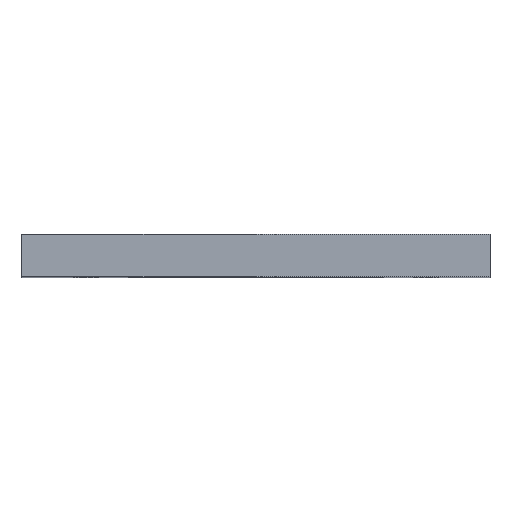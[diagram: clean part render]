
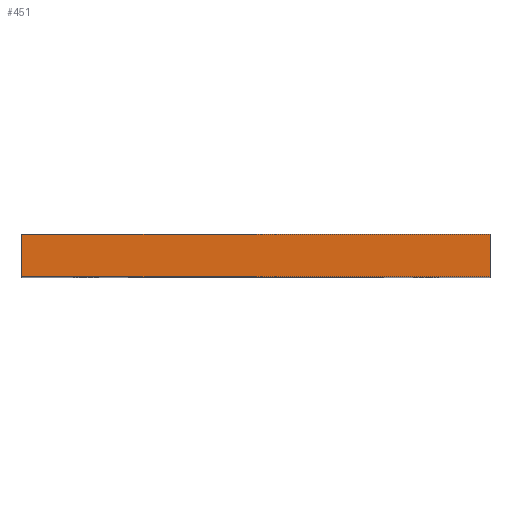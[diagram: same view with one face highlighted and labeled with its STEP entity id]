
A CAD part, top view. The second image highlights one B-rep face of the part: STEP entity #451.
In plain terms, the highlighted planar face has unit normal (0, 0, 1).
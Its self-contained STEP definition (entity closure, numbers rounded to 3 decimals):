
#24 = VERTEX_POINT('',#25);
#25 = CARTESIAN_POINT('',(-22.,-18.,45.));
#32 = PLANE('',#33);
#33 = AXIS2_PLACEMENT_3D('',#34,#35,#36);
#34 = CARTESIAN_POINT('',(-22.,-18.,-5.));
#35 = DIRECTION('',(1.,0.,0.));
#36 = DIRECTION('',(0.,0.,1.));
#44 = PLANE('',#45);
#45 = AXIS2_PLACEMENT_3D('',#46,#47,#48);
#46 = CARTESIAN_POINT('',(-22.,-18.,-5.));
#47 = DIRECTION('',(0.,1.,0.));
#48 = DIRECTION('',(0.,-0.,1.));
#85 = VERTEX_POINT('',#86);
#86 = CARTESIAN_POINT('',(-22.,-14.,45.));
#100 = PLANE('',#101);
#101 = AXIS2_PLACEMENT_3D('',#102,#103,#104);
#102 = CARTESIAN_POINT('',(-22.,-14.,-5.));
#103 = DIRECTION('',(0.,1.,0.));
#104 = DIRECTION('',(0.,-0.,1.));
#112 = EDGE_CURVE('',#24,#85,#113,.T.);
#113 = SURFACE_CURVE('',#114,(#118,#125),.PCURVE_S1.);
#114 = LINE('',#115,#116);
#115 = CARTESIAN_POINT('',(-22.,-18.,45.));
#116 = VECTOR('',#117,1.);
#117 = DIRECTION('',(0.,1.,0.));
#118 = PCURVE('',#32,#119);
#119 = DEFINITIONAL_REPRESENTATION('',(#120),#124);
#120 = LINE('',#121,#122);
#121 = CARTESIAN_POINT('',(50.,0.));
#122 = VECTOR('',#123,1.);
#123 = DIRECTION('',(0.,-1.));
#124 = ( GEOMETRIC_REPRESENTATION_CONTEXT(2) 
PARAMETRIC_REPRESENTATION_CONTEXT() REPRESENTATION_CONTEXT('2D SPACE',''
  ) );
#125 = PCURVE('',#126,#131);
#126 = PLANE('',#127);
#127 = AXIS2_PLACEMENT_3D('',#128,#129,#130);
#128 = CARTESIAN_POINT('',(-22.,-18.,45.));
#129 = DIRECTION('',(0.,0.,1.));
#130 = DIRECTION('',(1.,0.,-0.));
#131 = DEFINITIONAL_REPRESENTATION('',(#132),#136);
#132 = LINE('',#133,#134);
#133 = CARTESIAN_POINT('',(0.,0.));
#134 = VECTOR('',#135,1.);
#135 = DIRECTION('',(0.,1.));
#136 = ( GEOMETRIC_REPRESENTATION_CONTEXT(2) 
PARAMETRIC_REPRESENTATION_CONTEXT() REPRESENTATION_CONTEXT('2D SPACE',''
  ) );
#165 = EDGE_CURVE('',#24,#166,#168,.T.);
#166 = VERTEX_POINT('',#167);
#167 = CARTESIAN_POINT('',(22.,-18.,45.));
#168 = SURFACE_CURVE('',#169,(#173,#180),.PCURVE_S1.);
#169 = LINE('',#170,#171);
#170 = CARTESIAN_POINT('',(-22.,-18.,45.));
#171 = VECTOR('',#172,1.);
#172 = DIRECTION('',(1.,0.,0.));
#173 = PCURVE('',#44,#174);
#174 = DEFINITIONAL_REPRESENTATION('',(#175),#179);
#175 = LINE('',#176,#177);
#176 = CARTESIAN_POINT('',(50.,0.));
#177 = VECTOR('',#178,1.);
#178 = DIRECTION('',(0.,1.));
#179 = ( GEOMETRIC_REPRESENTATION_CONTEXT(2) 
PARAMETRIC_REPRESENTATION_CONTEXT() REPRESENTATION_CONTEXT('2D SPACE',''
  ) );
#180 = PCURVE('',#126,#181);
#181 = DEFINITIONAL_REPRESENTATION('',(#182),#186);
#182 = LINE('',#183,#184);
#183 = CARTESIAN_POINT('',(0.,0.));
#184 = VECTOR('',#185,1.);
#185 = DIRECTION('',(1.,0.));
#186 = ( GEOMETRIC_REPRESENTATION_CONTEXT(2) 
PARAMETRIC_REPRESENTATION_CONTEXT() REPRESENTATION_CONTEXT('2D SPACE',''
  ) );
#202 = PLANE('',#203);
#203 = AXIS2_PLACEMENT_3D('',#204,#205,#206);
#204 = CARTESIAN_POINT('',(22.,-18.,-5.));
#205 = DIRECTION('',(1.,0.,0.));
#206 = DIRECTION('',(0.,0.,1.));
#451 = ADVANCED_FACE('',(#452),#126,.T.);
#452 = FACE_BOUND('',#453,.T.);
#453 = EDGE_LOOP('',(#454,#455,#456,#479));
#454 = ORIENTED_EDGE('',*,*,#112,.F.);
#455 = ORIENTED_EDGE('',*,*,#165,.T.);
#456 = ORIENTED_EDGE('',*,*,#457,.T.);
#457 = EDGE_CURVE('',#166,#458,#460,.T.);
#458 = VERTEX_POINT('',#459);
#459 = CARTESIAN_POINT('',(22.,-14.,45.));
#460 = SURFACE_CURVE('',#461,(#465,#472),.PCURVE_S1.);
#461 = LINE('',#462,#463);
#462 = CARTESIAN_POINT('',(22.,-18.,45.));
#463 = VECTOR('',#464,1.);
#464 = DIRECTION('',(0.,1.,0.));
#465 = PCURVE('',#126,#466);
#466 = DEFINITIONAL_REPRESENTATION('',(#467),#471);
#467 = LINE('',#468,#469);
#468 = CARTESIAN_POINT('',(44.,0.));
#469 = VECTOR('',#470,1.);
#470 = DIRECTION('',(0.,1.));
#471 = ( GEOMETRIC_REPRESENTATION_CONTEXT(2) 
PARAMETRIC_REPRESENTATION_CONTEXT() REPRESENTATION_CONTEXT('2D SPACE',''
  ) );
#472 = PCURVE('',#202,#473);
#473 = DEFINITIONAL_REPRESENTATION('',(#474),#478);
#474 = LINE('',#475,#476);
#475 = CARTESIAN_POINT('',(50.,0.));
#476 = VECTOR('',#477,1.);
#477 = DIRECTION('',(0.,-1.));
#478 = ( GEOMETRIC_REPRESENTATION_CONTEXT(2) 
PARAMETRIC_REPRESENTATION_CONTEXT() REPRESENTATION_CONTEXT('2D SPACE',''
  ) );
#479 = ORIENTED_EDGE('',*,*,#480,.F.);
#480 = EDGE_CURVE('',#85,#458,#481,.T.);
#481 = SURFACE_CURVE('',#482,(#486,#493),.PCURVE_S1.);
#482 = LINE('',#483,#484);
#483 = CARTESIAN_POINT('',(-22.,-14.,45.));
#484 = VECTOR('',#485,1.);
#485 = DIRECTION('',(1.,0.,0.));
#486 = PCURVE('',#126,#487);
#487 = DEFINITIONAL_REPRESENTATION('',(#488),#492);
#488 = LINE('',#489,#490);
#489 = CARTESIAN_POINT('',(0.,4.));
#490 = VECTOR('',#491,1.);
#491 = DIRECTION('',(1.,0.));
#492 = ( GEOMETRIC_REPRESENTATION_CONTEXT(2) 
PARAMETRIC_REPRESENTATION_CONTEXT() REPRESENTATION_CONTEXT('2D SPACE',''
  ) );
#493 = PCURVE('',#100,#494);
#494 = DEFINITIONAL_REPRESENTATION('',(#495),#499);
#495 = LINE('',#496,#497);
#496 = CARTESIAN_POINT('',(50.,0.));
#497 = VECTOR('',#498,1.);
#498 = DIRECTION('',(0.,1.));
#499 = ( GEOMETRIC_REPRESENTATION_CONTEXT(2) 
PARAMETRIC_REPRESENTATION_CONTEXT() REPRESENTATION_CONTEXT('2D SPACE',''
  ) );
